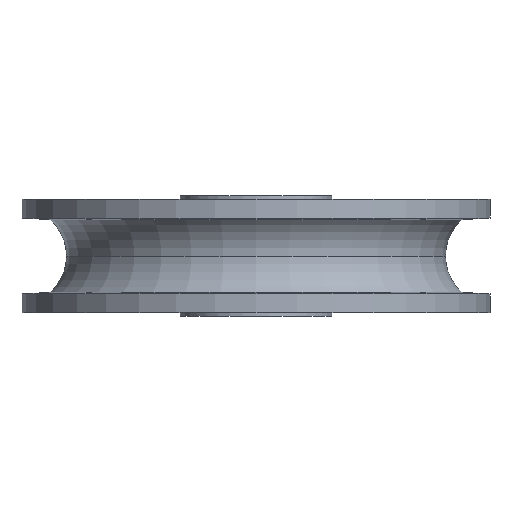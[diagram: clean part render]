
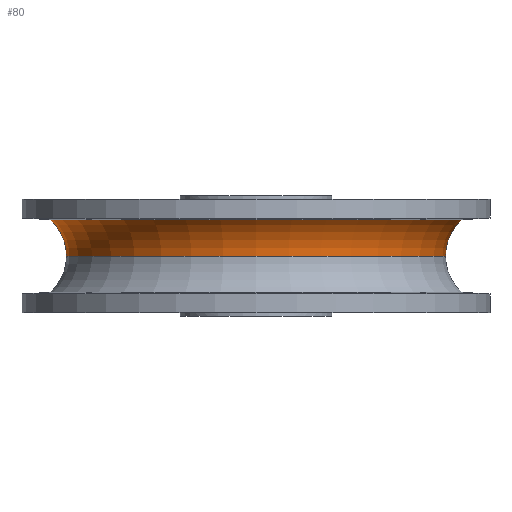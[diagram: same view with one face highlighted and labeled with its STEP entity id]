
A CAD part, front view. The second image highlights one B-rep face of the part: STEP entity #80.
In plain terms, the highlighted toroidal (fillet/blend) face has major radius 12.55 mm and minor radius 2.55 mm.
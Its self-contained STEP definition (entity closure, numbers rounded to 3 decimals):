
#56 = CARTESIAN_POINT ( 'NONE',  ( 0., 0., 0. ) ) ;
#80 = ADVANCED_FACE ( 'NONE', ( #169 ), #506, .F. ) ;
#81 = ORIENTED_EDGE ( 'NONE', *, *, #301, .F. ) ;
#115 = CIRCLE ( 'NONE', #373, 2.55 ) ;
#169 = FACE_OUTER_BOUND ( 'NONE', #1400, .T. ) ;
#189 = DIRECTION ( 'NONE',  ( 1., 0., 0. ) ) ;
#203 = DIRECTION ( 'NONE',  ( -1., 0., 0. ) ) ;
#209 = AXIS2_PLACEMENT_3D ( 'NONE', #983, #1613, #189 ) ;
#210 = ORIENTED_EDGE ( 'NONE', *, *, #661, .F. ) ;
#247 = DIRECTION ( 'NONE',  ( 1., 0., 0. ) ) ;
#301 = EDGE_CURVE ( 'NONE', #1772, #768, #115, .T. ) ;
#373 = AXIS2_PLACEMENT_3D ( 'NONE', #412, #1664, #854 ) ;
#412 = CARTESIAN_POINT ( 'NONE',  ( 12.55, 0., 0. ) ) ;
#476 = AXIS2_PLACEMENT_3D ( 'NONE', #1436, #1573, #800 ) ;
#486 = AXIS2_PLACEMENT_3D ( 'NONE', #56, #1679, #247 ) ;
#506 = TOROIDAL_SURFACE ( 'NONE', #476, 12.55, 2.55 ) ;
#661 = EDGE_CURVE ( 'NONE', #1226, #1772, #1727, .T. ) ;
#768 = VERTEX_POINT ( 'NONE', #1356 ) ;
#800 = DIRECTION ( 'NONE',  ( 1., 0., 0. ) ) ;
#845 = CARTESIAN_POINT ( 'NONE',  ( -12.55, 0., 0. ) ) ;
#854 = DIRECTION ( 'NONE',  ( 0., 0., -1. ) ) ;
#882 = ORIENTED_EDGE ( 'NONE', *, *, #1937, .T. ) ;
#983 = CARTESIAN_POINT ( 'NONE',  ( 0., 0., 1.923 ) ) ;
#1166 = CARTESIAN_POINT ( 'NONE',  ( -10., 0., 0. ) ) ;
#1179 = CARTESIAN_POINT ( 'NONE',  ( 10.875, 0., 1.923 ) ) ;
#1226 = VERTEX_POINT ( 'NONE', #1684 ) ;
#1238 = CIRCLE ( 'NONE', #1405, 2.55 ) ;
#1281 = ORIENTED_EDGE ( 'NONE', *, *, #1740, .T. ) ;
#1356 = CARTESIAN_POINT ( 'NONE',  ( 10., 0., 0. ) ) ;
#1385 = CIRCLE ( 'NONE', #486, 10. ) ;
#1400 = EDGE_LOOP ( 'NONE', ( #882, #1281, #81, #210 ) ) ;
#1405 = AXIS2_PLACEMENT_3D ( 'NONE', #845, #1904, #203 ) ;
#1436 = CARTESIAN_POINT ( 'NONE',  ( 0., 0., 0. ) ) ;
#1573 = DIRECTION ( 'NONE',  ( 0., 0., 1. ) ) ;
#1613 = DIRECTION ( 'NONE',  ( 0., 0., 1. ) ) ;
#1664 = DIRECTION ( 'NONE',  ( 0., -1., 0. ) ) ;
#1679 = DIRECTION ( 'NONE',  ( 0., 0., 1. ) ) ;
#1684 = CARTESIAN_POINT ( 'NONE',  ( -10.875, 0., 1.923 ) ) ;
#1727 = CIRCLE ( 'NONE', #209, 10.875 ) ;
#1740 = EDGE_CURVE ( 'NONE', #1792, #768, #1385, .T. ) ;
#1772 = VERTEX_POINT ( 'NONE', #1179 ) ;
#1792 = VERTEX_POINT ( 'NONE', #1166 ) ;
#1904 = DIRECTION ( 'NONE',  ( 0., 1., 0. ) ) ;
#1937 = EDGE_CURVE ( 'NONE', #1226, #1792, #1238, .T. ) ;
